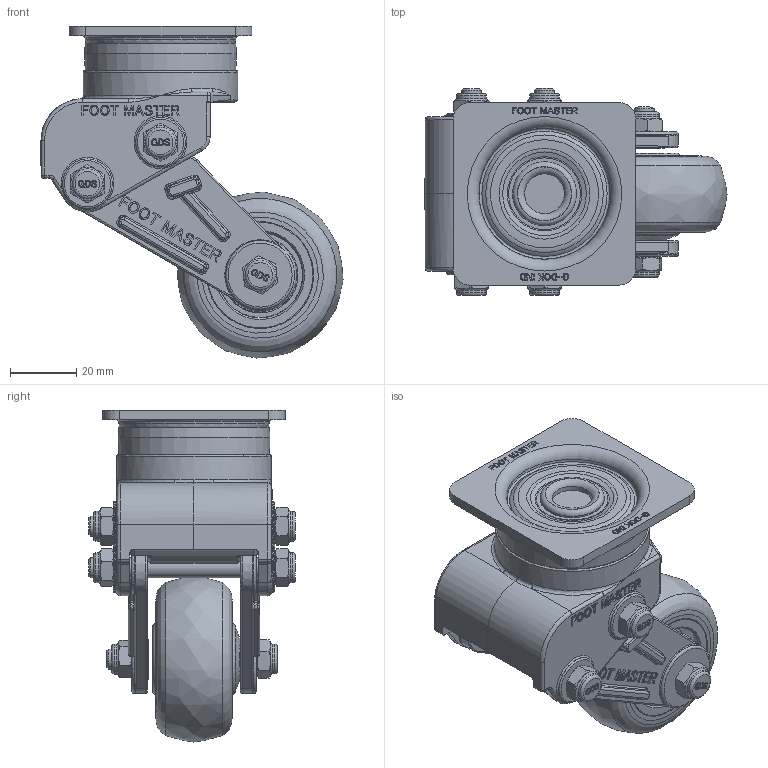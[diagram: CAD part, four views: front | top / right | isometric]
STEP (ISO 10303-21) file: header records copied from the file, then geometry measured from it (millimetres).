
FILE_DESCRIPTION(/* description */ (''),/* implementation_level */ '2;1');
FILE_NAME(/* name */ 'C:\Users\admin\Desktop\JYS\개발품\상세설계_20220328\홈페이지용 도면\GDS-50-ASF-EUS.stp',/* time_stamp */ '2023-03-08T14:33:00+09:00',/* author */ ('admin'),/* organization */ (''),/* preprocessor_version */ 'ST-DEVELOPER v18.1',/* originating_system */ 'Autodesk Inventor 2021',/* authorisation */ '');
FILE_SCHEMA (('AUTOMOTIVE_DESIGN { 1 0 10303 214 3 1 1 }'));
Products named in the file (1): GDS-50_ASF_REV01_Shrinkwrap_1
Bounding box: 90.97 x 62.3 x 99.97 mm (x, y, z)
Volume: 122195.1 mm3; surface area: 44656.3 mm2
Topology: 1 solids, 1 shells, 2052 faces, 5435 edges, 3499 vertices
Faces by surface type: plane 804, bspline 652, cylinder 289, cone 166, torus 121, sphere 20
Full cylindrical faces by diameter (mm): 6 x5, 8.8 x3, 9 x6, 12 x1, 17.216 x2, 18 x1, 19.3 x1, 20 x2, 22 x2, 22.784 x2, 30 x1, 43 x1, 44.5 x1, 46.5 x1
Entity records: 71464 total; most frequent: CARTESIAN_POINT 22616, ORIENTED_EDGE 10846, DIRECTION 7917, EDGE_CURVE 5423, VERTEX_POINT 3499, AXIS2_PLACEMENT_3D 2658, LINE 2601, VECTOR 2601
